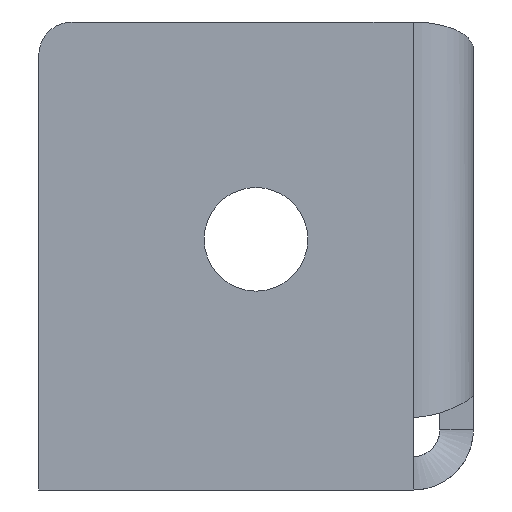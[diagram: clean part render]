
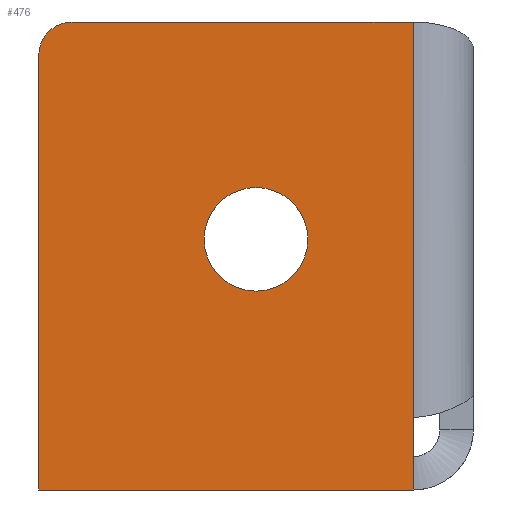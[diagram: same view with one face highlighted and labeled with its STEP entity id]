
A CAD part, front view. The second image highlights one B-rep face of the part: STEP entity #476.
In plain terms, the highlighted planar face has unit normal (0, -1, 0).
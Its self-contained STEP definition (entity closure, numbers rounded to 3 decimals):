
#1 = AXIS2_PLACEMENT_3D ( 'NONE', #701, #435, #189 ) ;
#6 = CARTESIAN_POINT ( 'NONE',  ( -16.217, -14.803, 0. ) ) ;
#11 = EDGE_CURVE ( 'NONE', #222, #986, #757, .T. ) ;
#44 = ORIENTED_EDGE ( 'NONE', *, *, #11, .F. ) ;
#75 = EDGE_CURVE ( 'NONE', #181, #875, #735, .T. ) ;
#116 = CARTESIAN_POINT ( 'NONE',  ( -3.217, -14.803, 15. ) ) ;
#134 = ORIENTED_EDGE ( 'NONE', *, *, #216, .T. ) ;
#155 = DIRECTION ( 'NONE',  ( -1., 0., 0. ) ) ;
#181 = VERTEX_POINT ( 'NONE', #184 ) ;
#184 = CARTESIAN_POINT ( 'NONE',  ( -3.217, -14.803, 18.1 ) ) ;
#189 = DIRECTION ( 'NONE',  ( 0., 0., -1. ) ) ;
#190 = CARTESIAN_POINT ( 'NONE',  ( -3.217, -14.803, 15. ) ) ;
#202 = DIRECTION ( 'NONE',  ( 0., 1., 0. ) ) ;
#213 = FACE_BOUND ( 'NONE', #669, .T. ) ;
#214 = PLANE ( 'NONE',  #1 ) ;
#216 = EDGE_CURVE ( 'NONE', #668, #986, #338, .T. ) ;
#222 = VERTEX_POINT ( 'NONE', #605 ) ;
#278 = CARTESIAN_POINT ( 'NONE',  ( -14.217, -14.803, 28. ) ) ;
#306 = CARTESIAN_POINT ( 'NONE',  ( 6.183, -14.803, 28. ) ) ;
#338 = LINE ( 'NONE', #615, #934 ) ;
#367 = CARTESIAN_POINT ( 'NONE',  ( -16.217, -14.803, 26. ) ) ;
#369 = EDGE_LOOP ( 'NONE', ( #786, #869, #134, #44, #818, #404 ) ) ;
#404 = ORIENTED_EDGE ( 'NONE', *, *, #507, .F. ) ;
#414 = VECTOR ( 'NONE', #663, 1000. ) ;
#424 = CARTESIAN_POINT ( 'NONE',  ( -3.217, -14.803, 11.9 ) ) ;
#426 = VERTEX_POINT ( 'NONE', #486 ) ;
#435 = DIRECTION ( 'NONE',  ( 0., -1., 0. ) ) ;
#437 = VECTOR ( 'NONE', #782, 1000. ) ;
#442 = AXIS2_PLACEMENT_3D ( 'NONE', #826, #759, #751 ) ;
#467 = LINE ( 'NONE', #924, #437 ) ;
#476 = ADVANCED_FACE ( 'NONE', ( #213, #816 ), #214, .T. ) ;
#486 = CARTESIAN_POINT ( 'NONE',  ( 6.183, -14.803, 4.354 ) ) ;
#497 = EDGE_CURVE ( 'NONE', #875, #181, #650, .T. ) ;
#507 = EDGE_CURVE ( 'NONE', #839, #426, #616, .T. ) ;
#521 = DIRECTION ( 'NONE',  ( 0., 1., 0. ) ) ;
#525 = DIRECTION ( 'NONE',  ( -1., 0., 0. ) ) ;
#527 = CARTESIAN_POINT ( 'NONE',  ( 6.183, -14.803, 0. ) ) ;
#559 = VECTOR ( 'NONE', #525, 1000. ) ;
#605 = CARTESIAN_POINT ( 'NONE',  ( 6.183, -14.803, 0. ) ) ;
#615 = CARTESIAN_POINT ( 'NONE',  ( -16.217, -14.803, 28. ) ) ;
#616 = LINE ( 'NONE', #893, #414 ) ;
#650 = CIRCLE ( 'NONE', #758, 3.1 ) ;
#662 = AXIS2_PLACEMENT_3D ( 'NONE', #190, #521, #886 ) ;
#663 = DIRECTION ( 'NONE',  ( 0., 0., -1. ) ) ;
#668 = VERTEX_POINT ( 'NONE', #367 ) ;
#669 = EDGE_LOOP ( 'NONE', ( #749, #878 ) ) ;
#671 = DIRECTION ( 'NONE',  ( 0., 0., 1. ) ) ;
#675 = EDGE_CURVE ( 'NONE', #668, #747, #884, .T. ) ;
#701 = CARTESIAN_POINT ( 'NONE',  ( -16.217, -14.803, 28. ) ) ;
#735 = CIRCLE ( 'NONE', #662, 3.1 ) ;
#747 = VERTEX_POINT ( 'NONE', #278 ) ;
#749 = ORIENTED_EDGE ( 'NONE', *, *, #75, .T. ) ;
#751 = DIRECTION ( 'NONE',  ( 0., 0., -1. ) ) ;
#757 = LINE ( 'NONE', #527, #559 ) ;
#758 = AXIS2_PLACEMENT_3D ( 'NONE', #116, #202, #671 ) ;
#759 = DIRECTION ( 'NONE',  ( 0., 1., 0. ) ) ;
#782 = DIRECTION ( 'NONE',  ( 0., 0., -1. ) ) ;
#784 = EDGE_CURVE ( 'NONE', #839, #747, #857, .T. ) ;
#786 = ORIENTED_EDGE ( 'NONE', *, *, #784, .T. ) ;
#816 = FACE_OUTER_BOUND ( 'NONE', #369, .T. ) ;
#818 = ORIENTED_EDGE ( 'NONE', *, *, #962, .F. ) ;
#826 = CARTESIAN_POINT ( 'NONE',  ( -14.217, -14.803, 26. ) ) ;
#829 = VECTOR ( 'NONE', #155, 1000. ) ;
#839 = VERTEX_POINT ( 'NONE', #306 ) ;
#840 = DIRECTION ( 'NONE',  ( 0., 0., -1. ) ) ;
#857 = LINE ( 'NONE', #931, #829 ) ;
#869 = ORIENTED_EDGE ( 'NONE', *, *, #675, .F. ) ;
#875 = VERTEX_POINT ( 'NONE', #424 ) ;
#878 = ORIENTED_EDGE ( 'NONE', *, *, #497, .T. ) ;
#884 = CIRCLE ( 'NONE', #442, 2. ) ;
#886 = DIRECTION ( 'NONE',  ( 0., 0., 1. ) ) ;
#893 = CARTESIAN_POINT ( 'NONE',  ( 6.183, -14.803, 28. ) ) ;
#924 = CARTESIAN_POINT ( 'NONE',  ( 6.183, -14.803, 4.354 ) ) ;
#931 = CARTESIAN_POINT ( 'NONE',  ( -16.217, -14.803, 28. ) ) ;
#934 = VECTOR ( 'NONE', #840, 1000. ) ;
#962 = EDGE_CURVE ( 'NONE', #426, #222, #467, .T. ) ;
#986 = VERTEX_POINT ( 'NONE', #6 ) ;
